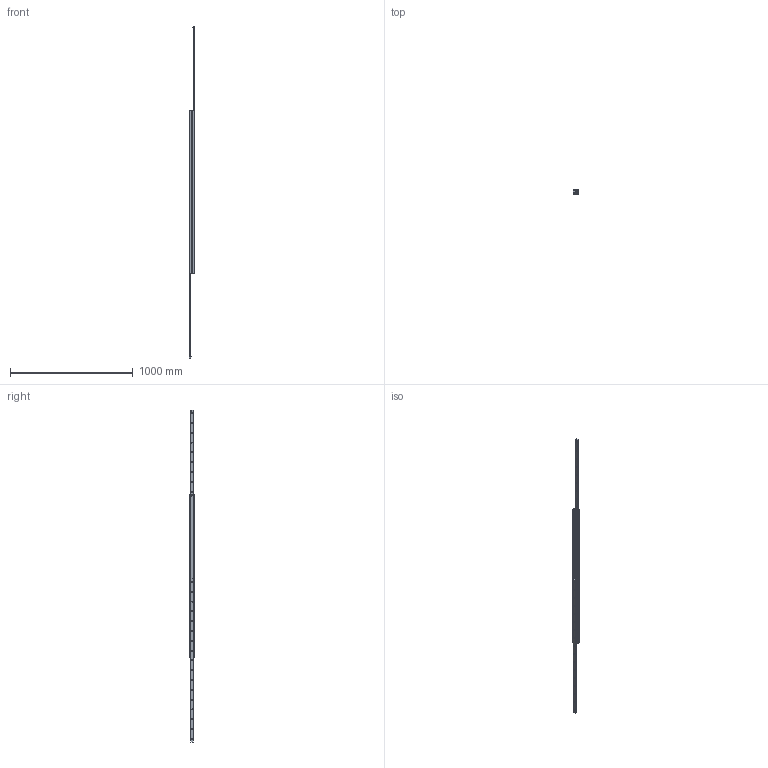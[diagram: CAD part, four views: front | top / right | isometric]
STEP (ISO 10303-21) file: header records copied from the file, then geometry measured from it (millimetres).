
FILE_DESCRIPTION( ( 'STEP AP214' ), '1' );
FILE_NAME( 'p:/temp/worker_81/temp/exporttempdir_3564_2121_DYcL9/format_1/DEF43-13301376.stp', '2020-03-20T20:01:48', ( 'License CC BY-ND 4.0' ), ( 'CADENAS' ), ' ', 'PARTsolutions', ' ' );
FILE_SCHEMA( ( 'AUTOMOTIVE_DESIGN { 1 0 10303 214 1 1 1 1 }' ) );
Length unit declared in the file: millimetre
Products named in the file (4): DEF43-13301376; _43211330137612-gf; _4321133013761-ei; _43211330137611-gf
Assembly tree (4 placements, depth 2):
  DEF43-13301376
    _43211330137612-gf
    _4321133013761-ei  x2
    _43211330137611-gf
Bounding box: 44 x 43 x 2706 mm (x, y, z)
Volume: 1643962.9 mm3; surface area: 626635.2 mm2
Topology: 4 solids, 4 shells, 254 faces, 630 edges, 396 vertices
Faces by surface type: plane 102, cylinder 80, cone 72
Full cylindrical faces by diameter (mm): 4.134 x2, 6.647 x34, 7 x2
Entity records: 7376 total; most frequent: DIRECTION 1024, CARTESIAN_POINT 923, ORIENTED_EDGE 798, AXIS2_PLACEMENT_3D 414, EDGE_CURVE 399, EDGE_LOOP 388, VERTEX_POINT 313, FACE_OUTER_BOUND 242
